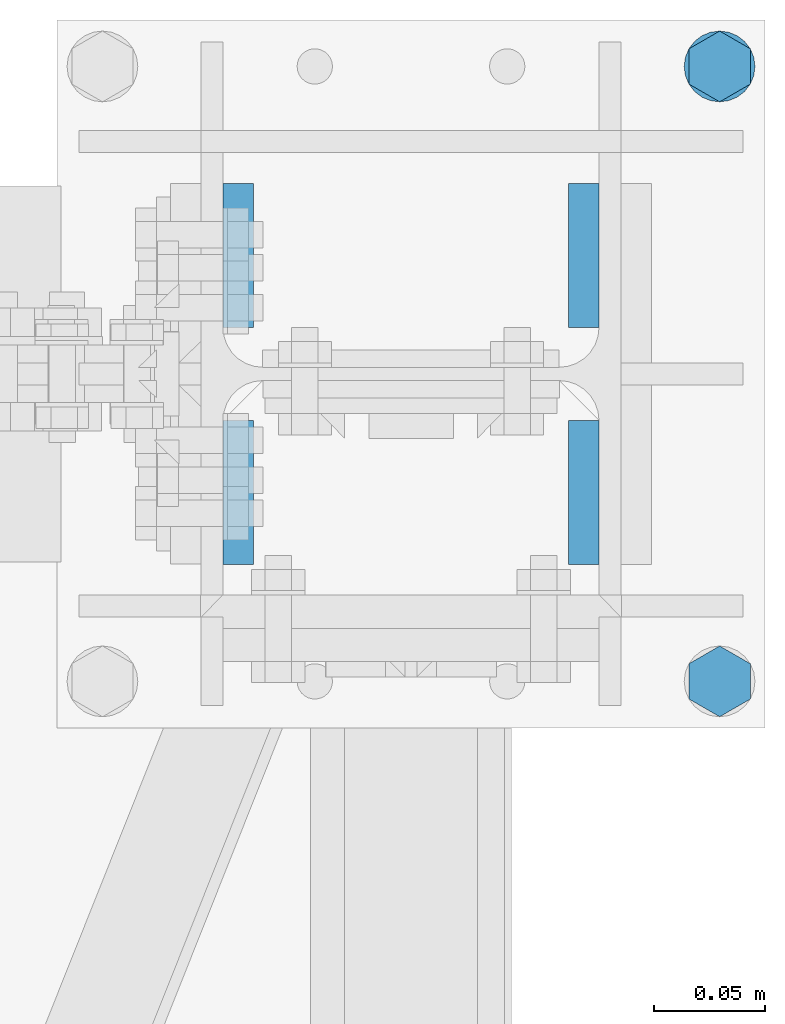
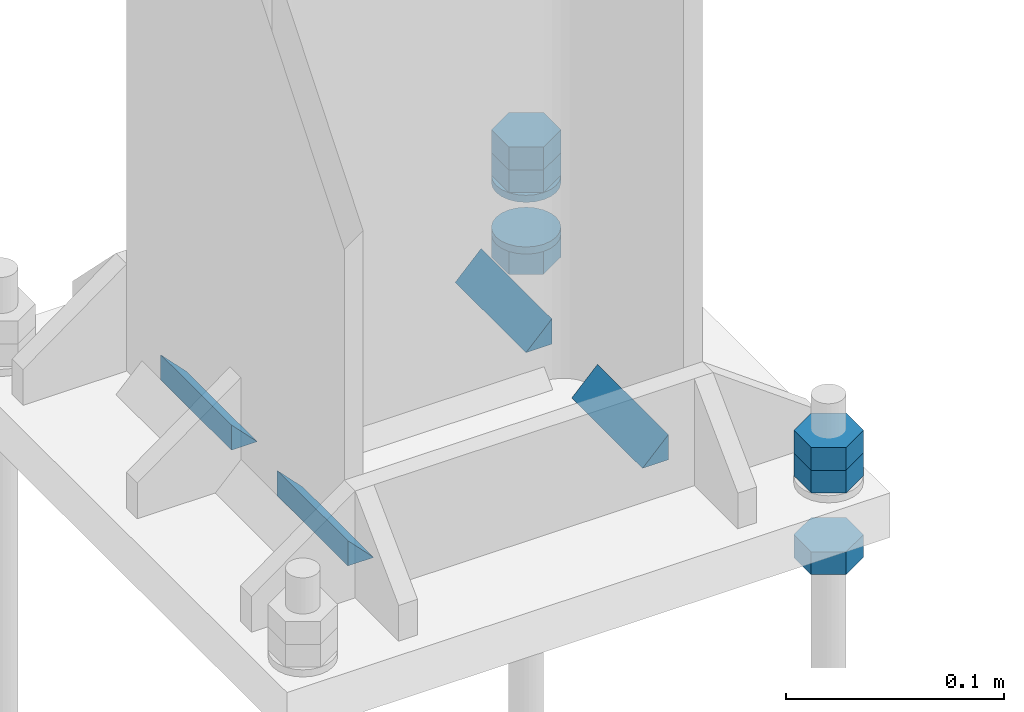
# One storey, part 229 of 251: 8 fasteners, 8 mechanical fasteners.
"""IFC4 building model written with IfcOpenShell, lengths in metres."""

from ifc_helpers import new_model, si_unit, frame, origin_with_axes, place, context, project, spatial, polyline, outline, extrude, type_object, element, save


model = new_model("IFC4")

# Units and contexts
model_context = context("Model", 3, precision=1e-05, world=origin_with_axes())
ifc_project = project(units=[si_unit("LENGTHUNIT", "METRE"), si_unit("AREAUNIT", "SQUARE_METRE"), si_unit("VOLUMEUNIT", "CUBIC_METRE"), si_unit("MASSUNIT", "GRAM", prefix="KILO"), si_unit("TIMEUNIT", "SECOND"), si_unit("PLANEANGLEUNIT", "RADIAN"), si_unit("SOLIDANGLEUNIT", "STERADIAN"), si_unit("THERMODYNAMICTEMPERATUREUNIT", "DEGREE_CELSIUS")], contexts=[model_context])

# Site, building, storey
placement_1 = place(None, origin_with_axes())
site = spatial("IfcSite", under=ifc_project, at=placement_1, Name="Italia", CompositionType="ELEMENT")
building = spatial("IfcBuilding", under=site, at=placement_1, Name="Deposito", CompositionType="ELEMENT")
storey = spatial("IfcBuildingStorey", under=building, at=placement_1, Name="Storey 0", CompositionType="ELEMENT", Elevation=0.0)

# Fasteners
fastener_type_1 = type_object("IfcFastenerType", Name="Collegamenti 0014_-001 0016_-054 0018_-056 0032_-002 0033_-058 0047_-003 0048_-060 0062_-004 0063_-005 0079_-008", PredefinedType="WELD")
placement_2 = place(placement_1, origin_with_axes())
fastener_1_placement = place(placement_2, origin_with_axes())
element("IfcFastener", 1, at=fastener_1_placement, inside=storey, type_object=fastener_type_1, Name="Collegamenti 0014_-001 0016_-054 0018_-056 0032_-002 0033_-058 0047_-003 0048_-060 0062_-004 0063_-005 0079_-008", context=model_context, shape_type="SweptSolid", body=[
    extrude(outline(polyline([(0.0, 0.0), (0.0137482, 0.0141734), (0.0137482, 0.0), (0.0, 0.0)])), frame((19.9287, 20.021, 0.07495), z_axis=(0.0, 1.0, 0.0), x_axis=(-1.0, 0.0, 0.0)), (0.0, 0.0, 1.0), 0.0650997),
])
fastener_type_2 = type_object("IfcFastenerType", Name="Collegamenti 0014_-001 0016_-054 0018_-056 0032_-002 0033_-058 0047_-003 0048_-060 0062_-004 0063_-005 0079_-008", PredefinedType="WELD")
fastener_2_placement = place(placement_2, origin_with_axes())
element("IfcFastener", 2, at=fastener_2_placement, inside=storey, type_object=fastener_type_2, Name="Collegamenti 0014_-001 0016_-054 0018_-056 0032_-002 0033_-058 0047_-003 0048_-060 0062_-004 0063_-005 0079_-008", context=model_context, shape_type="SweptSolid", body=[
    extrude(outline(polyline([(0.0, 0.0), (0.0137482, 0.0141734), (0.0137482, 0.0), (0.0, 0.0)])), frame((20.0713, 20.0861, 0.07495), z_axis=(0.0, -1.0, 0.0), x_axis=(1.0, 0.0, 0.0)), (0.0, 0.0, 1.0), 0.0650997),
])
fastener_type_3 = type_object("IfcFastenerType", Name="Collegamenti 0014_-001 0016_-054 0018_-056 0032_-002 0033_-058 0047_-003 0048_-060 0062_-004 0063_-005 0079_-008", PredefinedType="WELD")
fastener_3_placement = place(placement_2, origin_with_axes())
element("IfcFastener", 3, at=fastener_3_placement, inside=storey, type_object=fastener_type_3, Name="Collegamenti 0014_-001 0016_-054 0018_-056 0032_-002 0033_-058 0047_-003 0048_-060 0062_-004 0063_-005 0079_-008", context=model_context, shape_type="SweptSolid", body=[
    extrude(outline(polyline([(0.0, 0.0), (0.0137482, 0.0141734), (0.0137482, 0.0), (0.0, 0.0)])), frame((20.0713, 19.979, 0.07495), z_axis=(0.0, -1.0, 0.0), x_axis=(1.0, 0.0, 0.0)), (0.0, 0.0, 1.0), 0.0650997),
])
fastener_type_4 = type_object("IfcFastenerType", Name="Collegamenti 0014_-001 0016_-054 0018_-056 0032_-002 0033_-058 0047_-003 0048_-060 0062_-004 0063_-005 0079_-008", PredefinedType="WELD")
fastener_4_placement = place(placement_2, origin_with_axes())
element("IfcFastener", 4, at=fastener_4_placement, inside=storey, type_object=fastener_type_4, Name="Collegamenti 0014_-001 0016_-054 0018_-056 0032_-002 0033_-058 0047_-003 0048_-060 0062_-004 0063_-005 0079_-008", context=model_context, shape_type="SweptSolid", body=[
    extrude(outline(polyline([(0.0, 0.0), (0.0137482, 0.0141734), (0.0137482, 0.0), (0.0, 0.0)])), frame((19.9287, 19.9139, 0.07495), z_axis=(0.0, 1.0, 0.0), x_axis=(-1.0, 0.0, 0.0)), (0.0, 0.0, 1.0), 0.0650997),
])
fastener_type_5 = type_object("IfcFastenerType", Name="Collegamenti 0014_-001 0016_-054 0018_-056 0032_-002 0033_-058 0047_-003 0048_-060 0062_-004 0063_-005 0079_-008", PredefinedType="WELD")
fastener_5_placement = place(placement_2, origin_with_axes())
element("IfcFastener", 5, at=fastener_5_placement, inside=storey, type_object=fastener_type_5, Name="Collegamenti 0014_-001 0016_-054 0018_-056 0032_-002 0033_-058 0047_-003 0048_-060 0062_-004 0063_-005 0079_-008", context=model_context, shape_type="SweptSolid", body=[
    extrude(outline(polyline([(0.0, 0.0), (0.0137482, 0.0141734), (0.0137482, 0.0), (0.0, 0.0)])), frame((19.9287, 20.021, 0.07495), z_axis=(0.0, 1.0, 0.0), x_axis=(-1.0, 0.0, 0.0)), (0.0, 0.0, 1.0), 0.0650997),
])
fastener_type_6 = type_object("IfcFastenerType", Name="Collegamenti 0014_-001 0016_-054 0018_-056 0032_-002 0033_-058 0047_-003 0048_-060 0062_-004 0063_-005 0079_-008", PredefinedType="WELD")
fastener_6_placement = place(placement_2, origin_with_axes())
element("IfcFastener", 6, at=fastener_6_placement, inside=storey, type_object=fastener_type_6, Name="Collegamenti 0014_-001 0016_-054 0018_-056 0032_-002 0033_-058 0047_-003 0048_-060 0062_-004 0063_-005 0079_-008", context=model_context, shape_type="SweptSolid", body=[
    extrude(outline(polyline([(0.0, 0.0), (0.0137482, 0.0141734), (0.0137482, 0.0), (0.0, 0.0)])), frame((20.0713, 20.0861, 0.07495), z_axis=(0.0, -1.0, 0.0), x_axis=(1.0, 0.0, 0.0)), (0.0, 0.0, 1.0), 0.0650997),
])
fastener_type_7 = type_object("IfcFastenerType", Name="Collegamenti 0014_-001 0016_-054 0018_-056 0032_-002 0033_-058 0047_-003 0048_-060 0062_-004 0063_-005 0079_-008", PredefinedType="WELD")
fastener_7_placement = place(placement_2, origin_with_axes())
element("IfcFastener", 7, at=fastener_7_placement, inside=storey, type_object=fastener_type_7, Name="Collegamenti 0014_-001 0016_-054 0018_-056 0032_-002 0033_-058 0047_-003 0048_-060 0062_-004 0063_-005 0079_-008", context=model_context, shape_type="SweptSolid", body=[
    extrude(outline(polyline([(0.0, 0.0), (0.0137482, 0.0141734), (0.0137482, 0.0), (0.0, 0.0)])), frame((20.0713, 19.979, 0.07495), z_axis=(0.0, -1.0, 0.0), x_axis=(1.0, 0.0, 0.0)), (0.0, 0.0, 1.0), 0.0650997),
])
fastener_type_8 = type_object("IfcFastenerType", Name="Collegamenti 0014_-001 0016_-054 0018_-056 0032_-002 0033_-058 0047_-003 0048_-060 0062_-004 0063_-005 0079_-008", PredefinedType="WELD")
fastener_8_placement = place(placement_2, origin_with_axes())
element("IfcFastener", 8, at=fastener_8_placement, inside=storey, type_object=fastener_type_8, Name="Collegamenti 0014_-001 0016_-054 0018_-056 0032_-002 0033_-058 0047_-003 0048_-060 0062_-004 0063_-005 0079_-008", context=model_context, shape_type="SweptSolid", body=[
    extrude(outline(polyline([(0.0, 0.0), (0.0137482, 0.0141734), (0.0137482, 0.0), (0.0, 0.0)])), frame((19.9287, 19.9139, 0.07495), z_axis=(0.0, 1.0, 0.0), x_axis=(-1.0, 0.0, 0.0)), (0.0, 0.0, 1.0), 0.0650997),
])

# Mechanical fasteners
mechanical_fastener_type_1 = type_object("IfcMechanicalFastenerType", Name="Collegamenti 0014_-001 0016_-054 0018_-056 0032_-002 0033_-058 0047_-003 0048_-060 0062_-004 0063_-005 0079_-008", PredefinedType="BOLT")
mechanical_fastener_1_placement = place(placement_2, origin_with_axes())
element("IfcMechanicalFastener", 9, at=mechanical_fastener_1_placement, inside=storey, type_object=mechanical_fastener_type_1, Name="Collegamenti 0014_-001 0016_-054 0018_-056 0032_-002 0033_-058 0047_-003 0048_-060 0062_-004 0063_-005 0079_-008", NominalDiameter=0.0159988, context=model_context, shape_type="SweptSolid", body=[
    extrude(outline(polyline([(0.0, 0.0), (-0.0159988, 0.0), (-0.0240002, 0.0138569), (-0.0159988, 0.0277138), (0.0, 0.0277138), (0.00800133, 0.0138569), (0.0, 0.0)])), frame((20.1534, 19.869, 0.079), z_axis=(0.0, 0.0, 1.0), x_axis=(0.0, 1.0, 0.0)), (0.0, 0.0, 1.0), 0.0128),
])
mechanical_fastener_type_2 = type_object("IfcMechanicalFastenerType", Name="Collegamenti 0014_-001 0016_-054 0018_-056 0032_-002 0033_-058 0047_-003 0048_-060 0062_-004 0063_-005 0079_-008", PredefinedType="BOLT")
mechanical_fastener_2_placement = place(placement_2, origin_with_axes())
element("IfcMechanicalFastener", 10, at=mechanical_fastener_2_placement, inside=storey, type_object=mechanical_fastener_type_2, Name="Collegamenti 0014_-001 0016_-054 0018_-056 0032_-002 0033_-058 0047_-003 0048_-060 0062_-004 0063_-005 0079_-008", NominalDiameter=0.0159988, context=model_context, shape_type="SweptSolid", body=[
    extrude(outline(polyline([(0.0, 0.0), (-0.0159988, 0.0), (-0.0240002, 0.0138569), (-0.0159988, 0.0277138), (0.0, 0.0277138), (0.00800133, 0.0138569), (0.0, 0.0)])), frame((20.1534, 19.869, 0.0918), z_axis=(0.0, 0.0, 1.0), x_axis=(0.0, 1.0, 0.0)), (0.0, 0.0, 1.0), 0.0128),
])
mechanical_fastener_type_3 = type_object("IfcMechanicalFastenerType", Name="Collegamenti 0014_-001 0016_-054 0018_-056 0032_-002 0033_-058 0047_-003 0048_-060 0062_-004 0063_-005 0079_-008", PredefinedType="BOLT")
mechanical_fastener_3_placement = place(placement_2, origin_with_axes())
element("IfcMechanicalFastener", 11, at=mechanical_fastener_3_placement, inside=storey, type_object=mechanical_fastener_type_3, Name="Collegamenti 0014_-001 0016_-054 0018_-056 0032_-002 0033_-058 0047_-003 0048_-060 0062_-004 0063_-005 0079_-008", NominalDiameter=0.0159988, context=model_context, shape_type="SweptSolid", body=[
    extrude(outline(polyline([(0.0, 0.0), (-0.0159988, 0.0), (-0.0240002, 0.0138569), (-0.0159988, 0.0277138), (0.0, 0.0277138), (0.00800133, 0.0138569), (0.0, 0.0)])), frame((20.1534, 19.869, 0.0332), z_axis=(0.0, 0.0, 1.0), x_axis=(0.0, 1.0, 0.0)), (0.0, 0.0, 1.0), 0.0128),
])
mechanical_fastener_type_4 = type_object("IfcMechanicalFastenerType", Name="Collegamenti 0014_-001 0016_-054 0018_-056 0032_-002 0033_-058 0047_-003 0048_-060 0062_-004 0063_-005 0079_-008", PredefinedType="BOLT")
mechanical_fastener_4_placement = place(placement_2, origin_with_axes())
element("IfcMechanicalFastener", 12, at=mechanical_fastener_4_placement, inside=storey, type_object=mechanical_fastener_type_4, Name="Collegamenti 0014_-001 0016_-054 0018_-056 0032_-002 0033_-058 0047_-003 0048_-060 0062_-004 0063_-005 0079_-008", NominalDiameter=0.0159988, context=model_context, shape_type="SweptSolid", body=[
    extrude(outline(polyline([(0.0, 0.0), (-0.0159988, 0.0), (-0.0240002, 0.0138569), (-0.0159988, 0.0277138), (0.0, 0.0277138), (0.00800133, 0.0138569), (0.0, 0.0)])), frame((20.1534, 20.147, 0.079), z_axis=(0.0, 0.0, 1.0), x_axis=(0.0, 1.0, 0.0)), (0.0, 0.0, 1.0), 0.0128),
])
mechanical_fastener_type_5 = type_object("IfcMechanicalFastenerType", Name="Collegamenti 0014_-001 0016_-054 0018_-056 0032_-002 0033_-058 0047_-003 0048_-060 0062_-004 0063_-005 0079_-008", PredefinedType="BOLT")
mechanical_fastener_5_placement = place(placement_2, origin_with_axes())
element("IfcMechanicalFastener", 13, at=mechanical_fastener_5_placement, inside=storey, type_object=mechanical_fastener_type_5, Name="Collegamenti 0014_-001 0016_-054 0018_-056 0032_-002 0033_-058 0047_-003 0048_-060 0062_-004 0063_-005 0079_-008", NominalDiameter=0.0159988, context=model_context, shape_type="SweptSolid", body=[
    extrude(outline(polyline([(0.0, 0.0), (-0.0159988, 0.0), (-0.0240002, 0.0138569), (-0.0159988, 0.0277138), (0.0, 0.0277138), (0.00800133, 0.0138569), (0.0, 0.0)])), frame((20.1534, 20.147, 0.0918), z_axis=(0.0, 0.0, 1.0), x_axis=(0.0, 1.0, 0.0)), (0.0, 0.0, 1.0), 0.0128),
])
mechanical_fastener_type_6 = type_object("IfcMechanicalFastenerType", Name="Collegamenti 0014_-001 0016_-054 0018_-056 0032_-002 0033_-058 0047_-003 0048_-060 0062_-004 0063_-005 0079_-008", PredefinedType="BOLT")
mechanical_fastener_6_placement = place(placement_2, origin_with_axes())
element("IfcMechanicalFastener", 14, at=mechanical_fastener_6_placement, inside=storey, type_object=mechanical_fastener_type_6, Name="Collegamenti 0014_-001 0016_-054 0018_-056 0032_-002 0033_-058 0047_-003 0048_-060 0062_-004 0063_-005 0079_-008", NominalDiameter=0.0159988, context=model_context, shape_type="SweptSolid", body=[
    extrude(outline(polyline([(0.0, 0.0), (-0.0159988, 0.0), (-0.0240002, 0.0138569), (-0.0159988, 0.0277138), (0.0, 0.0277138), (0.00800133, 0.0138569), (0.0, 0.0)])), frame((20.1534, 20.147, 0.0332), z_axis=(0.0, 0.0, 1.0), x_axis=(0.0, 1.0, 0.0)), (0.0, 0.0, 1.0), 0.0128),
])
mechanical_fastener_type_7 = type_object("IfcMechanicalFastenerType", Name="Collegamenti 0014_-001 0016_-054 0018_-056 0032_-002 0033_-058 0047_-003 0048_-060 0062_-004 0063_-005 0079_-008", PredefinedType="BOLT")
mechanical_fastener_7_placement = place(placement_2, origin_with_axes())
element("IfcMechanicalFastener", 15, at=mechanical_fastener_7_placement, inside=storey, type_object=mechanical_fastener_type_7, Name="Collegamenti 0014_-001 0016_-054 0018_-056 0032_-002 0033_-058 0047_-003 0048_-060 0062_-004 0063_-005 0079_-008", NominalDiameter=0.032, context=model_context, shape_type="SweptSolid", body=[
    extrude(outline(polyline([(0.0, 0.0), (-0.000545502, -0.00414085), (-0.00214386, -0.00799942), (-0.00468636, -0.0113144), (-0.00800133, -0.0138569), (-0.0118599, -0.0154552), (-0.0160007, -0.0160007), (-0.0201416, -0.0154552), (-0.0240002, -0.0138569), (-0.0273151, -0.0113144), (-0.0298576, -0.00799942), (-0.031456, -0.00414085), (-0.0320015, 0.0), (-0.031456, 0.00414085), (-0.0298576, 0.00799942), (-0.0273151, 0.0113144), (-0.0240002, 0.0138569), (-0.0201416, 0.0154552), (-0.0160007, 0.0160007), (-0.0118599, 0.0154552), (-0.00800133, 0.0138569), (-0.00468636, 0.0113144), (-0.00214386, 0.00799942), (-0.000545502, 0.00414085), (0.0, 0.0)])), frame((20.1395, 20.155, 0.075), z_axis=(0.0, 0.0, 1.0), x_axis=(0.0, 1.0, 0.0)), (0.0, 0.0, 1.0), 0.00399999),
])
mechanical_fastener_type_8 = type_object("IfcMechanicalFastenerType", Name="Collegamenti 0014_-001 0016_-054 0018_-056 0032_-002 0033_-058 0047_-003 0048_-060 0062_-004 0063_-005 0079_-008", PredefinedType="BOLT")
mechanical_fastener_8_placement = place(placement_2, origin_with_axes())
element("IfcMechanicalFastener", 16, at=mechanical_fastener_8_placement, inside=storey, type_object=mechanical_fastener_type_8, Name="Collegamenti 0014_-001 0016_-054 0018_-056 0032_-002 0033_-058 0047_-003 0048_-060 0062_-004 0063_-005 0079_-008", NominalDiameter=0.032, context=model_context, shape_type="SweptSolid", body=[
    extrude(outline(polyline([(0.0, 0.0), (-0.000545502, -0.00414085), (-0.00214386, -0.00799942), (-0.00468636, -0.0113144), (-0.00800133, -0.0138569), (-0.0118599, -0.0154552), (-0.0160007, -0.0160007), (-0.0201416, -0.0154552), (-0.0240002, -0.0138569), (-0.0273151, -0.0113144), (-0.0298576, -0.00799942), (-0.031456, -0.00414085), (-0.0320015, 0.0), (-0.031456, 0.00414085), (-0.0298576, 0.00799942), (-0.0273151, 0.0113144), (-0.0240002, 0.0138569), (-0.0201416, 0.0154552), (-0.0160007, 0.0160007), (-0.0118599, 0.0154552), (-0.00800133, 0.0138569), (-0.00468636, 0.0113144), (-0.00214386, 0.00799942), (-0.000545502, 0.00414085), (0.0, 0.0)])), frame((20.1395, 20.155, 0.046), z_axis=(0.0, 0.0, 1.0), x_axis=(0.0, 1.0, 0.0)), (0.0, 0.0, 1.0), 0.004),
])

save(model, "model.ifc")
